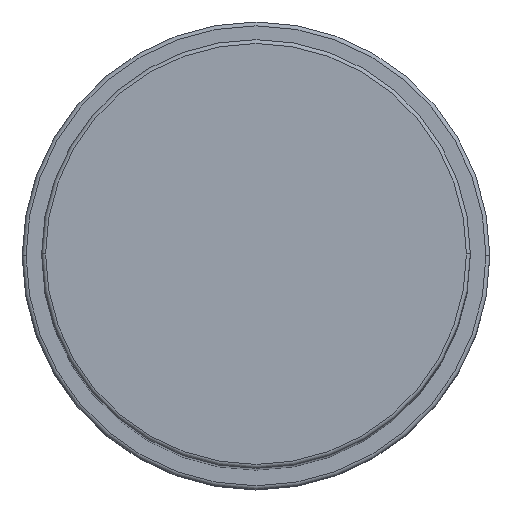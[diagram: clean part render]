
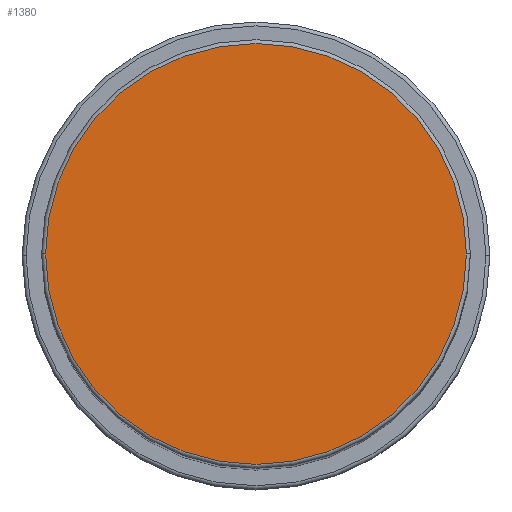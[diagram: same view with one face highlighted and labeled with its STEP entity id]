
A CAD part, top view. The second image highlights one B-rep face of the part: STEP entity #1380.
In plain terms, the highlighted planar face has unit normal (0, 0, 1).
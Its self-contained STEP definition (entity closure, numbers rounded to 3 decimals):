
#66 = CARTESIAN_POINT ( 'NONE',  ( 27., 0., 148. ) ) ;
#107 = CARTESIAN_POINT ( 'NONE',  ( -27., 0., 148. ) ) ;
#134 = VERTEX_POINT ( 'NONE', #66 ) ;
#364 = EDGE_LOOP ( 'NONE', ( #1422, #1504 ) ) ;
#422 = CIRCLE ( 'NONE', #1340, 27. ) ;
#505 = CARTESIAN_POINT ( 'NONE',  ( 0., 0., 148. ) ) ;
#611 = FACE_OUTER_BOUND ( 'NONE', #364, .T. ) ;
#631 = DIRECTION ( 'NONE',  ( 1., 0., 0. ) ) ;
#737 = VERTEX_POINT ( 'NONE', #107 ) ;
#948 = EDGE_CURVE ( 'NONE', #134, #737, #1071, .T. ) ;
#986 = AXIS2_PLACEMENT_3D ( 'NONE', #505, #1141, #1383 ) ;
#1006 = CARTESIAN_POINT ( 'NONE',  ( 0., 0., 148. ) ) ;
#1071 = CIRCLE ( 'NONE', #1312, 27. ) ;
#1141 = DIRECTION ( 'NONE',  ( 0., 0., 1. ) ) ;
#1173 = DIRECTION ( 'NONE',  ( 0., 0., 1. ) ) ;
#1312 = AXIS2_PLACEMENT_3D ( 'NONE', #1537, #1173, #1659 ) ;
#1340 = AXIS2_PLACEMENT_3D ( 'NONE', #1006, #1633, #631 ) ;
#1378 = PLANE ( 'NONE',  #986 ) ;
#1380 = ADVANCED_FACE ( 'NONE', ( #611 ), #1378, .T. ) ;
#1383 = DIRECTION ( 'NONE',  ( 1., 0., 0. ) ) ;
#1422 = ORIENTED_EDGE ( 'NONE', *, *, #948, .T. ) ;
#1423 = EDGE_CURVE ( 'NONE', #737, #134, #422, .T. ) ;
#1504 = ORIENTED_EDGE ( 'NONE', *, *, #1423, .T. ) ;
#1537 = CARTESIAN_POINT ( 'NONE',  ( 0., 0., 148. ) ) ;
#1633 = DIRECTION ( 'NONE',  ( 0., 0., 1. ) ) ;
#1659 = DIRECTION ( 'NONE',  ( 1., 0., 0. ) ) ;
